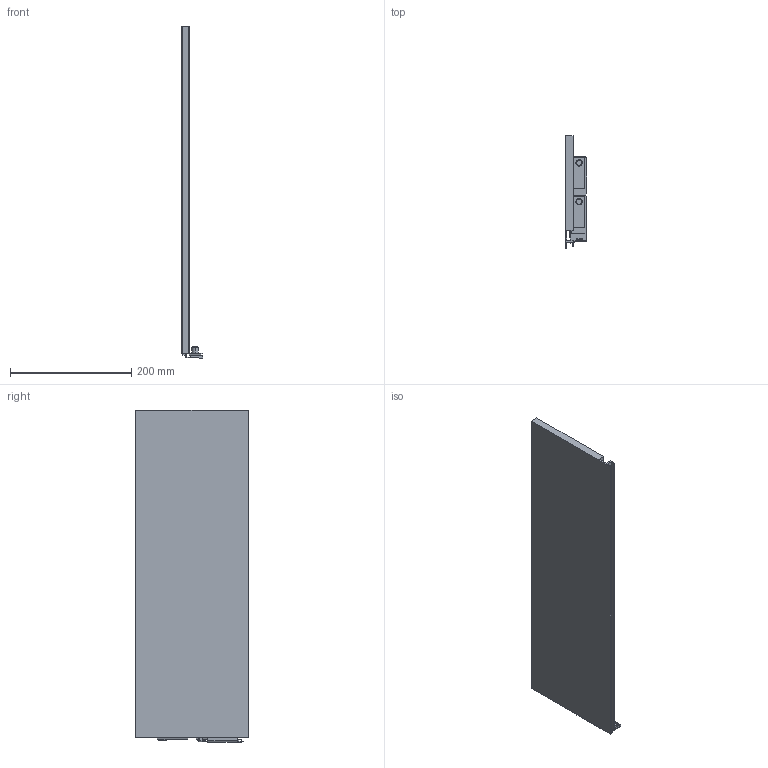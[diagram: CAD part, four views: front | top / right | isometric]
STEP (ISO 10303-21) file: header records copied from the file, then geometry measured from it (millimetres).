
FILE_DESCRIPTION (( 'STEP AP214' ), '1' );
FILE_NAME ('Vionaro_Alu-Zarge_H185_NL550_LI.STEP', '2014-08-20T15:07:00', ( '' ), ( '' ), 'SwSTEP 2.0', 'SolidWorks 2013', '' );
FILE_SCHEMA (( 'AUTOMOTIVE_DESIGN' ));
Length unit declared in the file: millimetre
Products named in the file (1): Vionaro_Alu-Zarge_H185_NL550_LI
Bounding box: 35.6 x 185 x 547.9 mm (x, y, z)
Volume: 1169049.5 mm3; surface area: 250133.4 mm2
Topology: 1 solids, 1 shells, 136 faces, 356 edges, 233 vertices
Faces by surface type: plane 96, cylinder 32, cone 8
Entity records: 4187 total; most frequent: CARTESIAN_POINT 732, ORIENTED_EDGE 712, DIRECTION 701, EDGE_CURVE 356, LINE 281, VECTOR 281, VERTEX_POINT 233, AXIS2_PLACEMENT_3D 210
